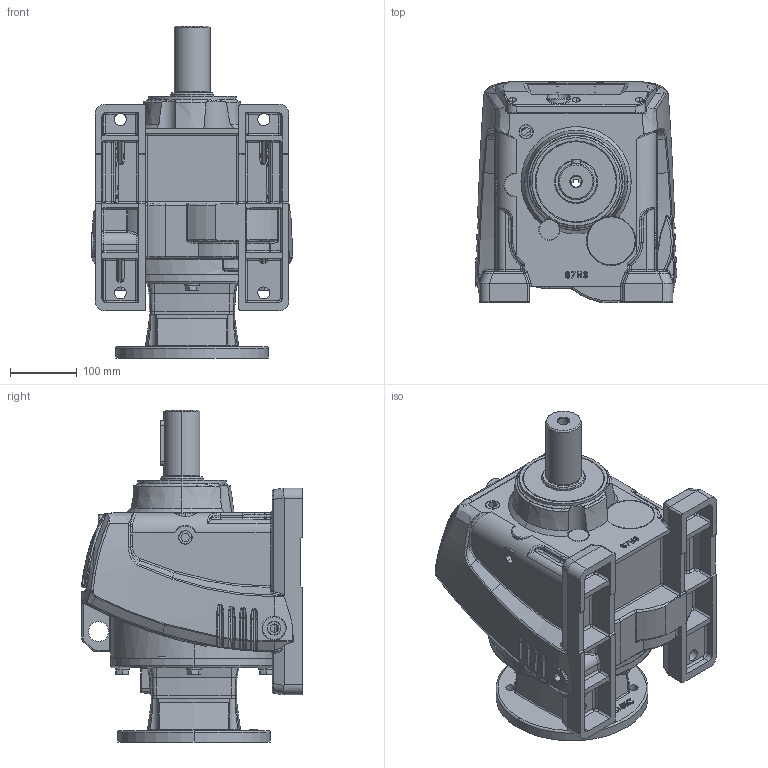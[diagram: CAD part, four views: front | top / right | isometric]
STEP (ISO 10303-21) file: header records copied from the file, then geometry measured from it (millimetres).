
FILE_DESCRIPTION (( 'STEP AP203' ), '1' );
FILE_NAME ('WINL87-213-5TC.STEP', '2013-09-26T09:52:47', ( 'User' ), ( 'Chenta' ), 'SwSTEP 2.0', 'SolidWorks 2011', '' );
FILE_SCHEMA (( 'CONFIG_CONTROL_DESIGN' ));
Products named in the file (1): WINL87-213-5TC
Bounding box: 301.8 x 330 x 497.5 mm (x, y, z)
Surface area: 854442.6 mm2 (no closed solid volume)
Topology: 0 solids, 35 shells, 1588 faces, 4536 edges, 2858 vertices
Faces by surface type: bspline 582, cylinder 390, plane 372, cone 88, torus 83, sphere 73
Entity records: 78346 total; most frequent: CARTESIAN_POINT 42060, ORIENTED_EDGE 8015, DIRECTION 6361, EDGE_CURVE 4482, VERTEX_POINT 2857, AXIS2_PLACEMENT_3D 2440, EDGE_LOOP 1711, FACE_OUTER_BOUND 1588
